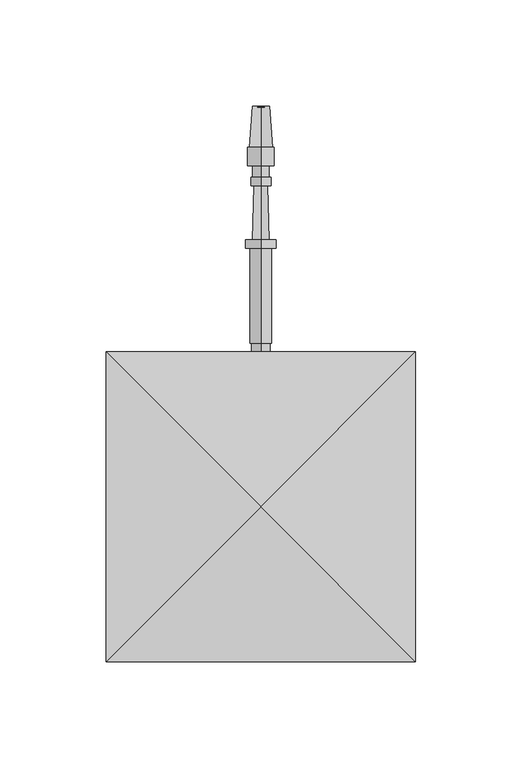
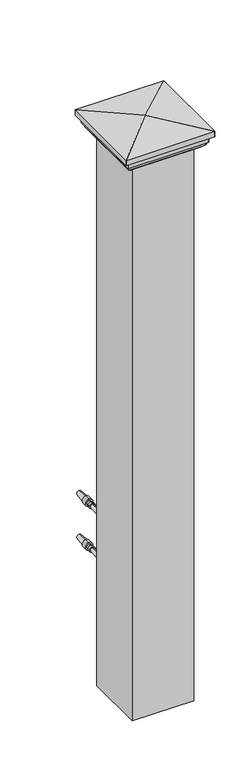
"""IFC4 building model written with IfcOpenShell, lengths in millimetres: railing geometry, RAILEASY CABLE RAILING CORNER TENSIONERS STAIR."""

from ifc_helpers import new_model, si_unit, point, frame, origin, place, context, project, spatial, polyline, circle_curve, ellipse_curve, trimmed, outline, extrude, source, transform, mapped, element, save
from ifc_brep_helpers import plane_surface, cylinder_surface, revolved_surface, advanced_brep


def railing_73b240f5(model_context):
    return source(origin(), model_context, "Body", "SolidModel", [
        advanced_brep(
        [(4097.4568095, 16768.2587003, 32759.0282881), (4097.4568095, 16768.2587003, 32762.6001631), (4097.4568095, 16768.2587003, 32766.1720381), (4097.4568095, 16893.2025896, 32762.6001631), (4097.4568095, 16893.4982539, 32758.5757028), (4097.4568095, 16893.4982539, 32766.6246235), (4097.4568095, 16874.1548899, 32757.1546072), (4097.4568095, 16874.1548899, 32768.045719), (4097.4568095, 16874.1548899, 32756.2616385), (4097.4568095, 16874.1548899, 32768.9386877), (4097.4568095, 16865.5228587, 32756.2616385), (4097.4568095, 16865.5228587, 32768.9386877), (4097.4568095, 16865.5228587, 32758.6428885), (4097.4568095, 16865.5228587, 32766.5574377), (4097.4568095, 16860.1650462, 32758.6428885), (4097.4568095, 16860.1650462, 32766.5574377), (4097.4568095, 16860.1650462, 32757.8491385), (4097.4568095, 16860.1650462, 32767.3511877), (4097.4568095, 16856.0970774, 32757.8491385), (4097.4568095, 16856.0970774, 32767.3511877), (4097.4568095, 16856.0529903, 32759.4360262), (4097.4568095, 16856.0529903, 32765.7643), (4097.4568095, 16830.6627871, 32758.7306319), (4097.4568095, 16830.6627871, 32766.4696944), (4097.4568095, 16830.6627871, 32755.4564131), (4097.4568095, 16830.6627871, 32769.7439131), (4097.4568095, 16826.6940371, 32755.4564131), (4097.4568095, 16826.6940371, 32769.7439131), (4097.4568095, 16826.6940371, 32757.4407881), (4097.4568095, 16826.6940371, 32767.7595381), (4097.4568095, 16781.9463808, 32757.4407881), (4097.4568095, 16781.9463808, 32767.7595381), (4097.4568095, 16781.9463808, 32758.2345381), (4097.4568095, 16781.9463808, 32766.9657881), (4097.4568095, 16775.5963808, 32758.2345381), (4097.4568095, 16775.5963808, 32766.9657881), (4097.4568095, 16775.5963808, 32759.0282881), (4097.4568095, 16775.5963808, 32766.1720381)],
        [
            (0, 1),
            (1, 2),
            (2, 0, circle_curve(frame((4097.4568095, 16768.2587003, 32762.6001631), z_axis=(0.0, -1.0, 0.0), x_axis=(0.0, 0.0, 1.0000000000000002)), 3.571875)),
            (0, 2, circle_curve(frame((4097.4568095, 16768.2587003, 32762.6001631), z_axis=(0.0, -1.0, 0.0), x_axis=(0.0, 0.0, 1.0000000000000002)), 3.571875)),
            (3, 4),
            (4, 5, circle_curve(frame((4097.4568095, 16893.4982539, 32762.6001631), z_axis=(0.0, 1.0, 0.0), x_axis=(0.0, 0.0, 1.0000000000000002)), 4.0244604)),
            (5, 3),
            (5, 4, circle_curve(frame((4097.4568095, 16893.4982539, 32762.6001631), z_axis=(0.0, 1.0, 0.0), x_axis=(0.0, 0.0, 1.0000000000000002)), 4.0244604)),
            (4, 6),
            (6, 7, circle_curve(frame((4097.4568095, 16874.1548899, 32762.6001631), z_axis=(0.0, 1.0, 0.0), x_axis=(0.0, 0.0, 1.0000000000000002)), 5.4455559)),
            (7, 5),
            (7, 6, circle_curve(frame((4097.4568095, 16874.1548899, 32762.6001631), z_axis=(0.0, 1.0, 0.0), x_axis=(0.0, 0.0, 1.0000000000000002)), 5.4455559)),
            (6, 8),
            (8, 9, circle_curve(frame((4097.4568095, 16874.1548899, 32762.6001631), z_axis=(0.0, 1.0, 0.0), x_axis=(0.0, 0.0, 1.0000000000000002)), 6.3385246)),
            (9, 7),
            (9, 8, circle_curve(frame((4097.4568095, 16874.1548899, 32762.6001631), z_axis=(0.0, 1.0, 0.0), x_axis=(0.0, 0.0, 1.0000000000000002)), 6.3385246)),
            (8, 10),
            (10, 11, circle_curve(frame((4097.4568095, 16865.5228587, 32762.6001631), z_axis=(0.0, 1.0, 0.0), x_axis=(0.0, 0.0, 1.0000000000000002)), 6.3385246)),
            (11, 9),
            (11, 10, circle_curve(frame((4097.4568095, 16865.5228587, 32762.6001631), z_axis=(0.0, 1.0, 0.0), x_axis=(0.0, 0.0, 1.0000000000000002)), 6.3385246)),
            (10, 12),
            (12, 13, circle_curve(frame((4097.4568095, 16865.5228587, 32762.6001631), z_axis=(0.0, 1.0, 0.0), x_axis=(0.0, 0.0, 1.0000000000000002)), 3.9572746)),
            (13, 11),
            (13, 12, circle_curve(frame((4097.4568095, 16865.5228587, 32762.6001631), z_axis=(0.0, 1.0, 0.0), x_axis=(0.0, 0.0, 1.0000000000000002)), 3.9572746)),
            (12, 14),
            (14, 15, circle_curve(frame((4097.4568095, 16860.1650462, 32762.6001631), z_axis=(0.0, 1.0, 0.0), x_axis=(0.0, 0.0, 1.0000000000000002)), 3.9572746)),
            (15, 13),
            (15, 14, circle_curve(frame((4097.4568095, 16860.1650462, 32762.6001631), z_axis=(0.0, 1.0, 0.0), x_axis=(0.0, 0.0, 1.0000000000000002)), 3.9572746)),
            (14, 16),
            (16, 17, circle_curve(frame((4097.4568095, 16860.1650462, 32762.6001631), z_axis=(0.0, 1.0, 0.0), x_axis=(0.0, 0.0, 1.0000000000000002)), 4.7510246)),
            (17, 15),
            (17, 16, circle_curve(frame((4097.4568095, 16860.1650462, 32762.6001631), z_axis=(0.0, 1.0, 0.0), x_axis=(0.0, 0.0, 1.0000000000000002)), 4.7510246)),
            (16, 18),
            (18, 19, circle_curve(frame((4097.4568095, 16856.0970774, 32762.6001631), z_axis=(0.0, 1.0, 0.0), x_axis=(0.0, 0.0, 1.0000000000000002)), 4.7510246)),
            (19, 17),
            (19, 18, circle_curve(frame((4097.4568095, 16856.0970774, 32762.6001631), z_axis=(0.0, 1.0, 0.0), x_axis=(0.0, 0.0, 1.0000000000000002)), 4.7510246)),
            (18, 20),
            (20, 21, circle_curve(frame((4097.4568095, 16856.0529903, 32762.6001631), z_axis=(0.0, 1.0, 0.0), x_axis=(0.0, 0.0, 1.0000000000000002)), 3.1641369)),
            (21, 19),
            (21, 20, circle_curve(frame((4097.4568095, 16856.0529903, 32762.6001631), z_axis=(0.0, 1.0, 0.0), x_axis=(0.0, 0.0, 1.0000000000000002)), 3.1641369)),
            (20, 22),
            (22, 23, circle_curve(frame((4097.4568095, 16830.6627871, 32762.6001631), z_axis=(0.0, 1.0, 0.0), x_axis=(0.0, 0.0, 1.0000000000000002)), 3.8695313)),
            (23, 21),
            (23, 22, circle_curve(frame((4097.4568095, 16830.6627871, 32762.6001631), z_axis=(0.0, 1.0, 0.0), x_axis=(0.0, 0.0, 1.0000000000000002)), 3.8695313)),
            (22, 24),
            (24, 25, circle_curve(frame((4097.4568095, 16830.6627871, 32762.6001631), z_axis=(0.0, 1.0, 0.0), x_axis=(0.0, 0.0, 1.0000000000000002)), 7.14375)),
            (25, 23),
            (25, 24, circle_curve(frame((4097.4568095, 16830.6627871, 32762.6001631), z_axis=(0.0, 1.0, 0.0), x_axis=(0.0, 0.0, 1.0000000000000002)), 7.14375)),
            (24, 26),
            (26, 27, circle_curve(frame((4097.4568095, 16826.6940371, 32762.6001631), z_axis=(0.0, 1.0, 0.0), x_axis=(0.0, 0.0, 1.0000000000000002)), 7.14375)),
            (27, 25),
            (27, 26, circle_curve(frame((4097.4568095, 16826.6940371, 32762.6001631), z_axis=(0.0, 1.0, 0.0), x_axis=(0.0, 0.0, 1.0000000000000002)), 7.14375)),
            (26, 28),
            (28, 29, circle_curve(frame((4097.4568095, 16826.6940371, 32762.6001631), z_axis=(0.0, 1.0, 0.0), x_axis=(0.0, 0.0, 1.0000000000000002)), 5.159375)),
            (29, 27),
            (29, 28, circle_curve(frame((4097.4568095, 16826.6940371, 32762.6001631), z_axis=(0.0, 1.0, 0.0), x_axis=(0.0, 0.0, 1.0000000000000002)), 5.159375)),
            (28, 30),
            (30, 31, circle_curve(frame((4097.4568095, 16781.9463808, 32762.6001631), z_axis=(0.0, 1.0, 0.0), x_axis=(0.0, 0.0, 1.0000000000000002)), 5.159375)),
            (31, 29),
            (31, 30, circle_curve(frame((4097.4568095, 16781.9463808, 32762.6001631), z_axis=(0.0, 1.0, 0.0), x_axis=(0.0, 0.0, 1.0000000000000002)), 5.159375)),
            (30, 32),
            (32, 33, circle_curve(frame((4097.4568095, 16781.9463808, 32762.6001631), z_axis=(0.0, 1.0, 0.0), x_axis=(0.0, 0.0, 1.0000000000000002)), 4.365625)),
            (33, 31),
            (33, 32, circle_curve(frame((4097.4568095, 16781.9463808, 32762.6001631), z_axis=(0.0, 1.0, 0.0), x_axis=(0.0, 0.0, 1.0000000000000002)), 4.365625)),
            (32, 34),
            (34, 35, circle_curve(frame((4097.4568095, 16775.5963808, 32762.6001631), z_axis=(0.0, 1.0, 0.0), x_axis=(0.0, 0.0, 1.0000000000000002)), 4.365625)),
            (35, 33),
            (35, 34, circle_curve(frame((4097.4568095, 16775.5963808, 32762.6001631), z_axis=(0.0, 1.0, 0.0), x_axis=(0.0, 0.0, 1.0000000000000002)), 4.365625)),
            (34, 36),
            (36, 37, circle_curve(frame((4097.4568095, 16775.5963808, 32762.6001631), z_axis=(0.0, 1.0, 0.0), x_axis=(0.0, 0.0, 1.0000000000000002)), 3.571875)),
            (37, 35),
            (37, 36, circle_curve(frame((4097.4568095, 16775.5963808, 32762.6001631), z_axis=(0.0, 1.0, 0.0), x_axis=(0.0, 0.0, 1.0000000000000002)), 3.571875)),
            (36, 0),
            (2, 37),
        ],
        [
            plane_surface(frame((4097.4568095, 16768.2587003, 32762.6001631), z_axis=(0.0, -1.0, 0.0), x_axis=(0.0, 0.0, 1.0))),
            revolved_surface(polyline([(4097.4568095, 16893.4982539, 32766.6246235), (4097.4568095, 16893.2025896, 32762.6001631)]), (4097.4568095, 16893.2025896, 32762.6001631), (0.0, 1.0, 0.0)),
            revolved_surface(polyline([(4097.4568095, 16874.1548899, 32768.045719), (4097.4568095, 16893.4982539, 32766.6246235)]), (4097.4568095, 16893.2025896, 32762.6001631), (0.0, 1.0, 0.0)),
            plane_surface(frame((4097.4568095, 16874.1548899, 32762.6001631), z_axis=(0.0, 1.0, 0.0), x_axis=(0.0, 0.0, 1.0))),
            cylinder_surface(frame((4097.4568095, 16893.2025896, 32762.6001631), z_axis=(0.0, 1.0, 0.0), x_axis=(0.0, 0.0, 1.0000000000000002)), 6.3385246),
            plane_surface(frame((4097.4568095, 16865.5228587, 32762.6001631), z_axis=(0.0, -1.0, 0.0), x_axis=(0.0, 0.0, 1.0))),
            cylinder_surface(frame((4097.4568095, 16893.2025896, 32762.6001631), z_axis=(0.0, 1.0, 0.0), x_axis=(0.0, 0.0, 1.0000000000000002)), 3.9572746),
            plane_surface(frame((4097.4568095, 16860.1650462, 32762.6001631), z_axis=(0.0, 1.0, 0.0), x_axis=(0.0, 0.0, 1.0))),
            cylinder_surface(frame((4097.4568095, 16893.2025896, 32762.6001631), z_axis=(0.0, 1.0, 0.0), x_axis=(0.0, 0.0, 1.0000000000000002)), 4.7510246),
            plane_surface(frame((4097.4568095, 16856.0529903, 32762.6001631), z_axis=(0.0, -1.0, 0.0), x_axis=(0.0, 0.0, 1.0))),
            revolved_surface(polyline([(4097.4568095, 16830.6627871, 32766.4696944), (4097.4568095, 16856.0529903, 32765.7643)]), (4097.4568095, 16893.2025896, 32762.6001631), (0.0, 1.0, 0.0)),
            plane_surface(frame((4097.4568095, 16830.6627871, 32762.6001631), z_axis=(0.0, 1.0, 0.0), x_axis=(0.0, 0.0, 1.0))),
            cylinder_surface(frame((4097.4568095, 16893.2025896, 32762.6001631), z_axis=(0.0, 1.0, 0.0), x_axis=(0.0, 0.0, 1.0000000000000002)), 7.14375),
            plane_surface(frame((4097.4568095, 16826.6940371, 32762.6001631), z_axis=(0.0, -1.0, 0.0), x_axis=(0.0, 0.0, 1.0))),
            cylinder_surface(frame((4097.4568095, 16893.2025896, 32762.6001631), z_axis=(0.0, 1.0, 0.0), x_axis=(0.0, 0.0, 1.0000000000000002)), 5.159375),
            plane_surface(frame((4097.4568095, 16781.9463808, 32762.6001631), z_axis=(0.0, -1.0, 0.0), x_axis=(0.0, 0.0, 1.0))),
            cylinder_surface(frame((4097.4568095, 16893.2025896, 32762.6001631), z_axis=(0.0, 1.0, 0.0), x_axis=(0.0, 0.0, 1.0000000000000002)), 4.365625),
            plane_surface(frame((4097.4568095, 16775.5963808, 32762.6001631), z_axis=(0.0, -1.0, 0.0), x_axis=(0.0, 0.0, 1.0))),
            cylinder_surface(frame((4097.4568095, 16893.2025896, 32762.6001631), z_axis=(0.0, 1.0, 0.0), x_axis=(0.0, 0.0, 1.0000000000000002)), 3.571875),
        ],
        [
            (0, [[1, 2, 3]]),
            (0, [[-2, -1, 4]]),
            (1, [[5, 6, 7]]),
            (1, [[-7, 8, -5]]),
            (2, [[9, 10, 11, -6]]),
            (2, [[-11, 12, -9, -8]]),
            (3, [[13, 14, 15, -10]]),
            (3, [[-15, 16, -13, -12]]),
            (4, [[17, 18, 19, -14]]),
            (4, [[-19, 20, -17, -16]]),
            (5, [[21, 22, 23, -18]]),
            (5, [[-23, 24, -21, -20]]),
            (6, [[25, 26, 27, -22]]),
            (6, [[-27, 28, -25, -24]]),
            (7, [[29, 30, 31, -26]]),
            (7, [[-31, 32, -29, -28]]),
            (8, [[33, 34, 35, -30]]),
            (8, [[-35, 36, -33, -32]]),
            (9, [[37, 38, 39, -34]]),
            (9, [[-39, 40, -37, -36]]),
            (10, [[41, 42, 43, -38]]),
            (10, [[-43, 44, -41, -40]]),
            (11, [[45, 46, 47, -42]]),
            (11, [[-47, 48, -45, -44]]),
            (12, [[49, 50, 51, -46]]),
            (12, [[-51, 52, -49, -48]]),
            (13, [[53, 54, 55, -50]]),
            (13, [[-55, 56, -53, -52]]),
            (14, [[57, 58, 59, -54]]),
            (14, [[-59, 60, -57, -56]]),
            (15, [[61, 62, 63, -58]]),
            (15, [[-63, 64, -61, -60]]),
            (16, [[65, 66, 67, -62]]),
            (16, [[-67, 68, -65, -64]]),
            (17, [[69, 70, 71, -66]]),
            (17, [[-71, 72, -69, -68]]),
            (18, [[73, -3, 74, -70]]),
            (18, [[-74, -4, -73, -72]]),
        ],
    ),
        advanced_brep(
        [(4097.4568095, 16755.5660637, 32686.4001631), (4097.4568095, 16755.5660637, 32705.4501631), (4097.4568095, 16755.5660637, 32667.3501631), (4097.4568095, 16768.2587003, 32680.8769785), (4097.4568095, 16768.2587003, 32691.9233478), (4097.4568095, 16768.2587003, 32686.4001631), (4097.4568095, 16762.9826039, 32677.2720381), (4097.4568095, 16762.9826039, 32695.5282881), (4097.4568095, 16758.6169789, 32671.6458254), (4097.4568095, 16758.6169789, 32701.1545009), (4097.4568095, 16758.6169789, 32667.7762941), (4097.4568095, 16758.6169789, 32705.0240321), (4097.4568095, 16757.9473137, 32667.3501631), (4097.4568095, 16757.9473137, 32705.4501631)],
        [
            (0, 1),
            (1, 2, circle_curve(frame((4097.4568095, 16755.5660637, 32686.4001631), z_axis=(0.0, -1.0, 0.0), x_axis=(0.0, 0.0, 1.0)), 19.05)),
            (2, 0),
            (2, 1, circle_curve(frame((4097.4568095, 16755.5660637, 32686.4001631), z_axis=(0.0, -1.0, 0.0), x_axis=(0.0, 0.0, 1.0)), 19.05)),
            (3, 4, circle_curve(frame((4097.4568095, 16768.2587003, 32686.4001631), z_axis=(0.0, 1.0, 0.0), x_axis=(0.0, 0.0, 1.0)), 5.5231846)),
            (4, 5),
            (5, 3),
            (4, 3, circle_curve(frame((4097.4568095, 16768.2587003, 32686.4001631), z_axis=(0.0, 1.0, 0.0), x_axis=(0.0, 0.0, 1.0)), 5.5231846)),
            (6, 7, circle_curve(frame((4097.4568095, 16762.9826039, 32686.4001631), z_axis=(0.0, 1.0, 0.0), x_axis=(0.0, 0.0, 1.0)), 9.128125)),
            (7, 4, circle_curve(frame((4097.4568095, 16760.6581952, 32686.4628958), z_axis=(-1.0, 0.0, 0.0), x_axis=(0.0, 1.0, 0.0)), 9.3586438)),
            (3, 6, circle_curve(frame((4097.4568095, 16760.6581952, 32686.3374304), z_axis=(-1.0, 0.0, 0.0), x_axis=(0.0, 1.0, 0.0)), 9.3586438)),
            (7, 6, circle_curve(frame((4097.4568095, 16762.9826039, 32686.4001631), z_axis=(0.0, 1.0, 0.0), x_axis=(0.0, 0.0, 1.0)), 9.128125)),
            (8, 9, circle_curve(frame((4097.4568095, 16758.6169789, 32686.4001631), z_axis=(0.0, 1.0, 0.0), x_axis=(0.0, 0.0, 1.0)), 14.7543378)),
            (9, 7, circle_curve(frame((4097.4568095, 16764.4251909, 32701.1545009), z_axis=(1.0, 0.0, 0.0), x_axis=(0.0, 1.0, 0.0)), 5.8082121)),
            (6, 8, circle_curve(frame((4097.4568095, 16764.4251909, 32671.6458254), z_axis=(1.0, 0.0, 0.0), x_axis=(0.0, 1.0, 0.0)), 5.8082121)),
            (9, 8, circle_curve(frame((4097.4568095, 16758.6169789, 32686.4001631), z_axis=(0.0, 1.0, 0.0), x_axis=(0.0, 0.0, 1.0)), 14.7543378)),
            (10, 11, circle_curve(frame((4097.4568095, 16758.6169789, 32686.4001631), z_axis=(0.0, 1.0, 0.0), x_axis=(0.0, 0.0, 1.0)), 18.623869)),
            (11, 9),
            (8, 10),
            (11, 10, circle_curve(frame((4097.4568095, 16758.6169789, 32686.4001631), z_axis=(0.0, 1.0, 0.0), x_axis=(0.0, 0.0, 1.0)), 18.623869)),
            (12, 13, circle_curve(frame((4097.4568095, 16757.9473137, 32686.4001631), z_axis=(0.0, 1.0, 0.0), x_axis=(0.0, 0.0, 1.0)), 19.05)),
            (13, 11),
            (10, 12),
            (13, 12, circle_curve(frame((4097.4568095, 16757.9473137, 32686.4001631), z_axis=(0.0, 1.0, 0.0), x_axis=(0.0, 0.0, 1.0)), 19.05)),
            (1, 13),
            (12, 2),
        ],
        [
            plane_surface(frame((4097.4568095, 16755.5660637, 32686.4001631), z_axis=(0.0, -1.0, 0.0), x_axis=(0.0, 0.0, 1.0))),
            plane_surface(frame((4097.4568095, 16768.2587003, 32686.4001631), z_axis=(0.0, 1.0, 0.0), x_axis=(0.0, 0.0, 1.0))),
            revolved_surface(trimmed(ellipse_curve(frame((4097.4568095, 16760.6581952, 32686.4628958), z_axis=(1.0, 0.0, 0.0), x_axis=(0.0, 1.0, 0.0)), 9.3586438, 9.3586438), [point((4097.4568095, 16768.2587003, 32691.9233478))], [point((4097.4568095, 16762.9826039, 32695.5282881))], True, "CARTESIAN"), (4097.4568095, 16755.5660637, 32686.4001631), (0.0, -1.0, 0.0)),
            revolved_surface(trimmed(ellipse_curve(frame((4097.4568095, 16764.4251909, 32701.1545009), z_axis=(-1.0, 0.0, 0.0), x_axis=(0.0, 1.0, 0.0)), 5.8082121, 5.8082121), [point((4097.4568095, 16762.9826039, 32695.5282881))], [point((4097.4568095, 16758.6169789, 32701.1545009))], True, "CARTESIAN"), (4097.4568095, 16755.5660637, 32686.4001631), (0.0, -1.0, 0.0)),
            plane_surface(frame((4097.4568095, 16758.6169789, 32686.4001631), z_axis=(0.0, 1.0, 0.0), x_axis=(0.0, 0.0, 1.0))),
            revolved_surface(polyline([(4097.4568095, 16758.6169789, 32705.0240321), (4097.4568095, 16757.9473137, 32705.4501631)]), (4097.4568095, 16755.5660637, 32686.4001631), (0.0, -1.0, 0.0)),
            cylinder_surface(frame((4097.4568095, 16755.5660637, 32686.4001631), z_axis=(0.0, -1.0, 0.0), x_axis=(0.0, 0.0, 1.0)), 19.05),
        ],
        [
            (0, [[1, 2, 3]]),
            (0, [[-3, 4, -1]]),
            (1, [[5, 6, 7]]),
            (1, [[8, -7, -6]]),
            (2, [[9, 10, -5, 11]]),
            (2, [[12, -11, -8, -10]]),
            (3, [[13, 14, -9, 15]]),
            (3, [[16, -15, -12, -14]]),
            (4, [[17, 18, -13, 19]]),
            (4, [[20, -19, -16, -18]]),
            (5, [[21, 22, -17, 23]]),
            (5, [[24, -23, -20, -22]]),
            (6, [[-2, 25, -21, 26]]),
            (6, [[-4, -26, -24, -25]]),
        ],
    ),
        advanced_brep(
        [(4097.4568095, 16768.2587003, 32682.8282881), (4097.4568095, 16768.2587003, 32686.4001631), (4097.4568095, 16768.2587003, 32689.9720381), (4097.4568095, 16893.2025896, 32686.4001631), (4097.4568095, 16893.4982539, 32682.3757028), (4097.4568095, 16893.4982539, 32690.4246235), (4097.4568095, 16874.1548899, 32680.9546072), (4097.4568095, 16874.1548899, 32691.845719), (4097.4568095, 16874.1548899, 32680.0616385), (4097.4568095, 16874.1548899, 32692.7386877), (4097.4568095, 16865.5228587, 32680.0616385), (4097.4568095, 16865.5228587, 32692.7386877), (4097.4568095, 16865.5228587, 32682.4428885), (4097.4568095, 16865.5228587, 32690.3574377), (4097.4568095, 16860.1650462, 32682.4428885), (4097.4568095, 16860.1650462, 32690.3574377), (4097.4568095, 16860.1650462, 32681.6491385), (4097.4568095, 16860.1650462, 32691.1511877), (4097.4568095, 16856.0970774, 32681.6491385), (4097.4568095, 16856.0970774, 32691.1511877), (4097.4568095, 16856.0529903, 32683.2360262), (4097.4568095, 16856.0529903, 32689.5643), (4097.4568095, 16830.6627871, 32682.5306319), (4097.4568095, 16830.6627871, 32690.2696944), (4097.4568095, 16830.6627871, 32679.2564131), (4097.4568095, 16830.6627871, 32693.5439131), (4097.4568095, 16826.6940371, 32679.2564131), (4097.4568095, 16826.6940371, 32693.5439131), (4097.4568095, 16826.6940371, 32681.2407881), (4097.4568095, 16826.6940371, 32691.5595381), (4097.4568095, 16781.9463808, 32681.2407881), (4097.4568095, 16781.9463808, 32691.5595381), (4097.4568095, 16781.9463808, 32682.0345381), (4097.4568095, 16781.9463808, 32690.7657881), (4097.4568095, 16775.5963808, 32682.0345381), (4097.4568095, 16775.5963808, 32690.7657881), (4097.4568095, 16775.5963808, 32682.8282881), (4097.4568095, 16775.5963808, 32689.9720381)],
        [
            (0, 1),
            (1, 2),
            (2, 0, circle_curve(frame((4097.4568095, 16768.2587003, 32686.4001631), z_axis=(0.0, -1.0, 0.0), x_axis=(0.0, 0.0, 1.0000000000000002)), 3.571875)),
            (0, 2, circle_curve(frame((4097.4568095, 16768.2587003, 32686.4001631), z_axis=(0.0, -1.0, 0.0), x_axis=(0.0, 0.0, 1.0000000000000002)), 3.571875)),
            (3, 4),
            (4, 5, circle_curve(frame((4097.4568095, 16893.4982539, 32686.4001631), z_axis=(0.0, 1.0, 0.0), x_axis=(0.0, 0.0, 1.0000000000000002)), 4.0244604)),
            (5, 3),
            (5, 4, circle_curve(frame((4097.4568095, 16893.4982539, 32686.4001631), z_axis=(0.0, 1.0, 0.0), x_axis=(0.0, 0.0, 1.0000000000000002)), 4.0244604)),
            (4, 6),
            (6, 7, circle_curve(frame((4097.4568095, 16874.1548899, 32686.4001631), z_axis=(0.0, 1.0, 0.0), x_axis=(0.0, 0.0, 1.0000000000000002)), 5.4455559)),
            (7, 5),
            (7, 6, circle_curve(frame((4097.4568095, 16874.1548899, 32686.4001631), z_axis=(0.0, 1.0, 0.0), x_axis=(0.0, 0.0, 1.0000000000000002)), 5.4455559)),
            (6, 8),
            (8, 9, circle_curve(frame((4097.4568095, 16874.1548899, 32686.4001631), z_axis=(0.0, 1.0, 0.0), x_axis=(0.0, 0.0, 1.0000000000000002)), 6.3385246)),
            (9, 7),
            (9, 8, circle_curve(frame((4097.4568095, 16874.1548899, 32686.4001631), z_axis=(0.0, 1.0, 0.0), x_axis=(0.0, 0.0, 1.0000000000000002)), 6.3385246)),
            (8, 10),
            (10, 11, circle_curve(frame((4097.4568095, 16865.5228587, 32686.4001631), z_axis=(0.0, 1.0, 0.0), x_axis=(0.0, 0.0, 1.0000000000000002)), 6.3385246)),
            (11, 9),
            (11, 10, circle_curve(frame((4097.4568095, 16865.5228587, 32686.4001631), z_axis=(0.0, 1.0, 0.0), x_axis=(0.0, 0.0, 1.0000000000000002)), 6.3385246)),
            (10, 12),
            (12, 13, circle_curve(frame((4097.4568095, 16865.5228587, 32686.4001631), z_axis=(0.0, 1.0, 0.0), x_axis=(0.0, 0.0, 1.0000000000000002)), 3.9572746)),
            (13, 11),
            (13, 12, circle_curve(frame((4097.4568095, 16865.5228587, 32686.4001631), z_axis=(0.0, 1.0, 0.0), x_axis=(0.0, 0.0, 1.0000000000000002)), 3.9572746)),
            (12, 14),
            (14, 15, circle_curve(frame((4097.4568095, 16860.1650462, 32686.4001631), z_axis=(0.0, 1.0, 0.0), x_axis=(0.0, 0.0, 1.0000000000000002)), 3.9572746)),
            (15, 13),
            (15, 14, circle_curve(frame((4097.4568095, 16860.1650462, 32686.4001631), z_axis=(0.0, 1.0, 0.0), x_axis=(0.0, 0.0, 1.0000000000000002)), 3.9572746)),
            (14, 16),
            (16, 17, circle_curve(frame((4097.4568095, 16860.1650462, 32686.4001631), z_axis=(0.0, 1.0, 0.0), x_axis=(0.0, 0.0, 1.0000000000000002)), 4.7510246)),
            (17, 15),
            (17, 16, circle_curve(frame((4097.4568095, 16860.1650462, 32686.4001631), z_axis=(0.0, 1.0, 0.0), x_axis=(0.0, 0.0, 1.0000000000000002)), 4.7510246)),
            (16, 18),
            (18, 19, circle_curve(frame((4097.4568095, 16856.0970774, 32686.4001631), z_axis=(0.0, 1.0, 0.0), x_axis=(0.0, 0.0, 1.0000000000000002)), 4.7510246)),
            (19, 17),
            (19, 18, circle_curve(frame((4097.4568095, 16856.0970774, 32686.4001631), z_axis=(0.0, 1.0, 0.0), x_axis=(0.0, 0.0, 1.0000000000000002)), 4.7510246)),
            (18, 20),
            (20, 21, circle_curve(frame((4097.4568095, 16856.0529903, 32686.4001631), z_axis=(0.0, 1.0, 0.0), x_axis=(0.0, 0.0, 1.0000000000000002)), 3.1641369)),
            (21, 19),
            (21, 20, circle_curve(frame((4097.4568095, 16856.0529903, 32686.4001631), z_axis=(0.0, 1.0, 0.0), x_axis=(0.0, 0.0, 1.0000000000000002)), 3.1641369)),
            (20, 22),
            (22, 23, circle_curve(frame((4097.4568095, 16830.6627871, 32686.4001631), z_axis=(0.0, 1.0, 0.0), x_axis=(0.0, 0.0, 1.0000000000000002)), 3.8695313)),
            (23, 21),
            (23, 22, circle_curve(frame((4097.4568095, 16830.6627871, 32686.4001631), z_axis=(0.0, 1.0, 0.0), x_axis=(0.0, 0.0, 1.0000000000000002)), 3.8695313)),
            (22, 24),
            (24, 25, circle_curve(frame((4097.4568095, 16830.6627871, 32686.4001631), z_axis=(0.0, 1.0, 0.0), x_axis=(0.0, 0.0, 1.0000000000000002)), 7.14375)),
            (25, 23),
            (25, 24, circle_curve(frame((4097.4568095, 16830.6627871, 32686.4001631), z_axis=(0.0, 1.0, 0.0), x_axis=(0.0, 0.0, 1.0000000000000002)), 7.14375)),
            (24, 26),
            (26, 27, circle_curve(frame((4097.4568095, 16826.6940371, 32686.4001631), z_axis=(0.0, 1.0, 0.0), x_axis=(0.0, 0.0, 1.0000000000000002)), 7.14375)),
            (27, 25),
            (27, 26, circle_curve(frame((4097.4568095, 16826.6940371, 32686.4001631), z_axis=(0.0, 1.0, 0.0), x_axis=(0.0, 0.0, 1.0000000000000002)), 7.14375)),
            (26, 28),
            (28, 29, circle_curve(frame((4097.4568095, 16826.6940371, 32686.4001631), z_axis=(0.0, 1.0, 0.0), x_axis=(0.0, 0.0, 1.0000000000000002)), 5.159375)),
            (29, 27),
            (29, 28, circle_curve(frame((4097.4568095, 16826.6940371, 32686.4001631), z_axis=(0.0, 1.0, 0.0), x_axis=(0.0, 0.0, 1.0000000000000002)), 5.159375)),
            (28, 30),
            (30, 31, circle_curve(frame((4097.4568095, 16781.9463808, 32686.4001631), z_axis=(0.0, 1.0, 0.0), x_axis=(0.0, 0.0, 1.0000000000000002)), 5.159375)),
            (31, 29),
            (31, 30, circle_curve(frame((4097.4568095, 16781.9463808, 32686.4001631), z_axis=(0.0, 1.0, 0.0), x_axis=(0.0, 0.0, 1.0000000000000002)), 5.159375)),
            (30, 32),
            (32, 33, circle_curve(frame((4097.4568095, 16781.9463808, 32686.4001631), z_axis=(0.0, 1.0, 0.0), x_axis=(0.0, 0.0, 1.0000000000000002)), 4.365625)),
            (33, 31),
            (33, 32, circle_curve(frame((4097.4568095, 16781.9463808, 32686.4001631), z_axis=(0.0, 1.0, 0.0), x_axis=(0.0, 0.0, 1.0000000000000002)), 4.365625)),
            (32, 34),
            (34, 35, circle_curve(frame((4097.4568095, 16775.5963808, 32686.4001631), z_axis=(0.0, 1.0, 0.0), x_axis=(0.0, 0.0, 1.0000000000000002)), 4.365625)),
            (35, 33),
            (35, 34, circle_curve(frame((4097.4568095, 16775.5963808, 32686.4001631), z_axis=(0.0, 1.0, 0.0), x_axis=(0.0, 0.0, 1.0000000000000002)), 4.365625)),
            (34, 36),
            (36, 37, circle_curve(frame((4097.4568095, 16775.5963808, 32686.4001631), z_axis=(0.0, 1.0, 0.0), x_axis=(0.0, 0.0, 1.0000000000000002)), 3.571875)),
            (37, 35),
            (37, 36, circle_curve(frame((4097.4568095, 16775.5963808, 32686.4001631), z_axis=(0.0, 1.0, 0.0), x_axis=(0.0, 0.0, 1.0000000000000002)), 3.571875)),
            (36, 0),
            (2, 37),
        ],
        [
            plane_surface(frame((4097.4568095, 16768.2587003, 32686.4001631), z_axis=(0.0, -1.0, 0.0), x_axis=(0.0, 0.0, 1.0))),
            revolved_surface(polyline([(4097.4568095, 16893.4982539, 32690.4246235), (4097.4568095, 16893.2025896, 32686.4001631)]), (4097.4568095, 16893.2025896, 32686.4001631), (0.0, 1.0, 0.0)),
            revolved_surface(polyline([(4097.4568095, 16874.1548899, 32691.845719), (4097.4568095, 16893.4982539, 32690.4246235)]), (4097.4568095, 16893.2025896, 32686.4001631), (0.0, 1.0, 0.0)),
            plane_surface(frame((4097.4568095, 16874.1548899, 32686.4001631), z_axis=(0.0, 1.0, 0.0), x_axis=(0.0, 0.0, 1.0))),
            cylinder_surface(frame((4097.4568095, 16893.2025896, 32686.4001631), z_axis=(0.0, 1.0, 0.0), x_axis=(0.0, 0.0, 1.0000000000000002)), 6.3385246),
            plane_surface(frame((4097.4568095, 16865.5228587, 32686.4001631), z_axis=(0.0, -1.0, 0.0), x_axis=(0.0, 0.0, 1.0))),
            cylinder_surface(frame((4097.4568095, 16893.2025896, 32686.4001631), z_axis=(0.0, 1.0, 0.0), x_axis=(0.0, 0.0, 1.0000000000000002)), 3.9572746),
            plane_surface(frame((4097.4568095, 16860.1650462, 32686.4001631), z_axis=(0.0, 1.0, 0.0), x_axis=(0.0, 0.0, 1.0))),
            cylinder_surface(frame((4097.4568095, 16893.2025896, 32686.4001631), z_axis=(0.0, 1.0, 0.0), x_axis=(0.0, 0.0, 1.0000000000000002)), 4.7510246),
            plane_surface(frame((4097.4568095, 16856.0529903, 32686.4001631), z_axis=(0.0, -1.0, 0.0), x_axis=(0.0, 0.0, 1.0))),
            revolved_surface(polyline([(4097.4568095, 16830.6627871, 32690.2696944), (4097.4568095, 16856.0529903, 32689.5643)]), (4097.4568095, 16893.2025896, 32686.4001631), (0.0, 1.0, 0.0)),
            plane_surface(frame((4097.4568095, 16830.6627871, 32686.4001631), z_axis=(0.0, 1.0, 0.0), x_axis=(0.0, 0.0, 1.0))),
            cylinder_surface(frame((4097.4568095, 16893.2025896, 32686.4001631), z_axis=(0.0, 1.0, 0.0), x_axis=(0.0, 0.0, 1.0000000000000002)), 7.14375),
            plane_surface(frame((4097.4568095, 16826.6940371, 32686.4001631), z_axis=(0.0, -1.0, 0.0), x_axis=(0.0, 0.0, 1.0))),
            cylinder_surface(frame((4097.4568095, 16893.2025896, 32686.4001631), z_axis=(0.0, 1.0, 0.0), x_axis=(0.0, 0.0, 1.0000000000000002)), 5.159375),
            plane_surface(frame((4097.4568095, 16781.9463808, 32686.4001631), z_axis=(0.0, -1.0, 0.0), x_axis=(0.0, 0.0, 1.0))),
            cylinder_surface(frame((4097.4568095, 16893.2025896, 32686.4001631), z_axis=(0.0, 1.0, 0.0), x_axis=(0.0, 0.0, 1.0000000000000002)), 4.365625),
            plane_surface(frame((4097.4568095, 16775.5963808, 32686.4001631), z_axis=(0.0, -1.0, 0.0), x_axis=(0.0, 0.0, 1.0))),
            cylinder_surface(frame((4097.4568095, 16893.2025896, 32686.4001631), z_axis=(0.0, 1.0, 0.0), x_axis=(0.0, 0.0, 1.0000000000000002)), 3.571875),
        ],
        [
            (0, [[1, 2, 3]]),
            (0, [[-2, -1, 4]]),
            (1, [[5, 6, 7]]),
            (1, [[-7, 8, -5]]),
            (2, [[9, 10, 11, -6]]),
            (2, [[-11, 12, -9, -8]]),
            (3, [[13, 14, 15, -10]]),
            (3, [[-15, 16, -13, -12]]),
            (4, [[17, 18, 19, -14]]),
            (4, [[-19, 20, -17, -16]]),
            (5, [[21, 22, 23, -18]]),
            (5, [[-23, 24, -21, -20]]),
            (6, [[25, 26, 27, -22]]),
            (6, [[-27, 28, -25, -24]]),
            (7, [[29, 30, 31, -26]]),
            (7, [[-31, 32, -29, -28]]),
            (8, [[33, 34, 35, -30]]),
            (8, [[-35, 36, -33, -32]]),
            (9, [[37, 38, 39, -34]]),
            (9, [[-39, 40, -37, -36]]),
            (10, [[41, 42, 43, -38]]),
            (10, [[-43, 44, -41, -40]]),
            (11, [[45, 46, 47, -42]]),
            (11, [[-47, 48, -45, -44]]),
            (12, [[49, 50, 51, -46]]),
            (12, [[-51, 52, -49, -48]]),
            (13, [[53, 54, 55, -50]]),
            (13, [[-55, 56, -53, -52]]),
            (14, [[57, 58, 59, -54]]),
            (14, [[-59, 60, -57, -56]]),
            (15, [[61, 62, 63, -58]]),
            (15, [[-63, 64, -61, -60]]),
            (16, [[65, 66, 67, -62]]),
            (16, [[-67, 68, -65, -64]]),
            (17, [[69, 70, 71, -66]]),
            (17, [[-71, 72, -69, -68]]),
            (18, [[73, -3, 74, -70]]),
            (18, [[-74, -4, -73, -72]]),
        ],
    ),
        extrude(outline(polyline([(4046.6568095, 16653.9487645), (4046.6568095, 16755.5487645), (4148.2568095, 16755.5487645), (4148.2568095, 16653.9487645), (4046.6568095, 16653.9487645)])), frame((0.0, 0.0, 32527.3789062), z_axis=(0.0, 0.0, 1.0), x_axis=(1.0, 0.0, 0.0)), (0.0, 0.0, 1.0), 965.2),
        advanced_brep(
        [(4170.4818095, 16631.7237645, 33527.5039062), (4170.4818095, 16777.7737645, 33527.5039062), (4097.4568095, 16704.7487645, 33537.0289063), (4170.4818095, 16631.7237645, 33517.9789062), (4170.4818095, 16777.7737645, 33517.9789062), (4164.1318095, 16638.0737645, 33517.9789062), (4164.1318095, 16771.4237645, 33517.9789062), (4164.1318095, 16638.0737645, 33506.8203026), (4164.1318095, 16771.4237645, 33506.8203026), (4160.4607158, 16641.7448583, 33500.5164062), (4160.4607158, 16767.7526708, 33500.5164062), (4157.2857158, 16644.9198583, 33500.5164062), (4157.2857158, 16764.5776708, 33500.5164062), (4150.9357158, 16651.2698583, 33494.1664062), (4150.9357158, 16758.2276708, 33494.1664062), (4150.9357158, 16651.2698583, 33492.5789063), (4150.9357158, 16758.2276708, 33492.5789063), (4097.4568095, 16704.7487645, 33492.5789063)],
        [
            (0, 1),
            (1, 2),
            (2, 0),
            (3, 4),
            (4, 1),
            (0, 3),
            (5, 6),
            (6, 4),
            (3, 5),
            (7, 8),
            (8, 6),
            (5, 7),
            (9, 10),
            (10, 8, ellipse_curve(frame((4173.1607158, 16780.4526708, 33497.3414063), z_axis=(-0.7071067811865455, 0.7071067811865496, 0.0), x_axis=(-0.7071067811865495, -0.7071067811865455, 0.0)), 18.5132723, 13.0908604)),
            (7, 9, ellipse_curve(frame((4173.1607158, 16629.0448583, 33497.3414063), z_axis=(-0.7071067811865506, -0.7071067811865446, 0.0), x_axis=(0.7071067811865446, -0.7071067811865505, 0.0)), 18.5132723, 13.0908604)),
            (11, 12),
            (12, 10),
            (9, 11),
            (13, 14),
            (14, 12, ellipse_curve(frame((4150.9357158, 16758.2276708, 33500.5164062), z_axis=(0.7071067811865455, -0.7071067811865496, 0.0), x_axis=(0.7071067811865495, 0.7071067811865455, 0.0)), 8.9802561, 6.35)),
            (11, 13, ellipse_curve(frame((4150.9357158, 16651.2698583, 33500.5164062), z_axis=(0.7071067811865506, 0.7071067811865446, 0.0), x_axis=(-0.7071067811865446, 0.7071067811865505, 0.0)), 8.9802561, 6.35)),
            (15, 16),
            (16, 14),
            (13, 15),
            (17, 16),
            (15, 17),
            (2, 17),
        ],
        [
            plane_surface(frame((4170.4818095, 16821.9504732, 33527.5039062), z_axis=(0.12933918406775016, 0.0, 0.9916004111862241), x_axis=(0.0, -1.0, 0.0))),
            plane_surface(frame((4170.4818095, 16821.9504732, 33517.9789062), z_axis=(1.0, 0.0, 0.0), x_axis=(0.0, -1.0, 0.0))),
            plane_surface(frame((4164.1318095, 16821.9504732, 33517.9789062), z_axis=(0.0, 0.0, -1.0), x_axis=(0.0, -1.0, 0.0))),
            plane_surface(frame((4164.1318095, 16821.9504732, 33506.8203026), z_axis=(1.0, 0.0, 0.0), x_axis=(0.0, -1.0, 0.0))),
            revolved_surface(polyline([(4160.0698554, 16615.953997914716, 33497.3414063), (4160.0698554, 16793.543531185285, 33497.3414063)]), (4173.1607158, 16595.4551851, 33497.3414063), (0.0, -1.0, 0.0)),
            plane_surface(frame((4157.2857158, 16821.9504732, 33500.5164062), z_axis=(0.0, 0.0, -1.0), x_axis=(0.0, -1.0, 0.0))),
            cylinder_surface(frame((4150.9357158, 16595.4551851, 33500.5164062), z_axis=(0.0, 1.0, 0.0), x_axis=(-1.0, 0.0, 0.0)), 6.35),
            plane_surface(frame((4150.9357158, 16821.9504732, 33492.5789063), z_axis=(1.0, 0.0, 0.0), x_axis=(0.0, -1.0, 0.0))),
            plane_surface(frame((4097.4568095, 16821.9504732, 33492.5789063), z_axis=(0.0, 0.0, -1.0), x_axis=(0.0, -1.0, 0.0))),
            plane_surface(frame((4097.4568095, 16704.7487645, 33721.1789063), z_axis=(-0.7071067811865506, -0.7071067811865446, 0.0), x_axis=(0.0, 0.0, -1.0))),
            plane_surface(frame((4230.8068095, 16838.0987645, 33721.1789063), z_axis=(-0.7071067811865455, 0.7071067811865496, 0.0), x_axis=(0.0, 0.0, -1.0))),
        ],
        [
            (0, [[1, 2, 3]]),
            (1, [[4, 5, -1, 6]]),
            (2, [[7, 8, -4, 9]]),
            (3, [[10, 11, -7, 12]]),
            (4, [[13, 14, -10, 15]]),
            (5, [[16, 17, -13, 18]]),
            (6, [[19, 20, -16, 21]]),
            (7, [[22, 23, -19, 24]]),
            (8, [[25, -22, 26]]),
            (9, [[27, -26, -24, -21, -18, -15, -12, -9, -6, -3]]),
            (10, [[-5, -8, -11, -14, -17, -20, -23, -25, -27, -2]]),
        ],
    ),
        advanced_brep(
        [(4097.4568095, 16704.7487645, 33537.0289063), (4024.4318095, 16777.7737645, 33527.5039062), (4024.4318095, 16631.7237645, 33527.5039062), (4024.4318095, 16777.7737645, 33517.9789062), (4024.4318095, 16631.7237645, 33517.9789062), (4030.7818095, 16771.4237645, 33517.9789062), (4030.7818095, 16638.0737645, 33517.9789062), (4030.7818095, 16771.4237645, 33506.8203026), (4030.7818095, 16638.0737645, 33506.8203026), (4034.4529033, 16767.7526708, 33500.5164062), (4034.4529033, 16641.7448583, 33500.5164062), (4037.6279033, 16764.5776708, 33500.5164062), (4037.6279033, 16644.9198583, 33500.5164062), (4043.9779033, 16758.2276708, 33494.1664062), (4043.9779033, 16651.2698583, 33494.1664062), (4043.9779033, 16758.2276708, 33492.5789063), (4043.9779033, 16651.2698583, 33492.5789063), (4097.4568095, 16704.7487645, 33492.5789063)],
        [
            (0, 1),
            (1, 2),
            (2, 0),
            (1, 3),
            (3, 4),
            (4, 2),
            (3, 5),
            (5, 6),
            (6, 4),
            (5, 7),
            (7, 8),
            (8, 6),
            (7, 9, ellipse_curve(frame((4021.7529033, 16780.4526708, 33497.3414063), z_axis=(0.7071067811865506, 0.7071067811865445, 0.0), x_axis=(0.7071067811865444, -0.7071067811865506, 0.0)), 18.5132723, 13.0908604)),
            (9, 10),
            (10, 8, ellipse_curve(frame((4021.7529033, 16629.0448583, 33497.3414063), z_axis=(0.7071067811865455, -0.7071067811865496, 0.0), x_axis=(-0.7071067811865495, -0.7071067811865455, 0.0)), 18.5132723, 13.0908604)),
            (9, 11),
            (11, 12),
            (12, 10),
            (11, 13, ellipse_curve(frame((4043.9779033, 16758.2276708, 33500.5164062), z_axis=(-0.7071067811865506, -0.7071067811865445, 0.0), x_axis=(-0.7071067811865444, 0.7071067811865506, 0.0)), 8.9802561, 6.35)),
            (13, 14),
            (14, 12, ellipse_curve(frame((4043.9779033, 16651.2698583, 33500.5164062), z_axis=(-0.7071067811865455, 0.7071067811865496, 0.0), x_axis=(0.7071067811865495, 0.7071067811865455, 0.0)), 8.9802561, 6.35)),
            (13, 15),
            (15, 16),
            (16, 14),
            (15, 17),
            (17, 16),
            (17, 0),
        ],
        [
            plane_surface(frame((4097.4568095, 16821.9504732, 33537.0289063), z_axis=(-0.12933918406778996, 0.0, 0.9916004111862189), x_axis=(0.0, -1.0, 0.0))),
            plane_surface(frame((4024.4318095, 16821.9504732, 33527.5039062), z_axis=(-1.0, 0.0, 0.0), x_axis=(0.0, -1.0, 0.0))),
            plane_surface(frame((4024.4318095, 16821.9504732, 33517.9789062), z_axis=(0.0, 0.0, -1.0), x_axis=(0.0, -1.0, 0.0))),
            plane_surface(frame((4030.7818095, 16821.9504732, 33517.9789062), z_axis=(-1.0, 0.0, 0.0), x_axis=(0.0, -1.0, 0.0))),
            revolved_surface(polyline([(4034.8437637, 16615.953997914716, 33497.3414063), (4034.8437637, 16793.543531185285, 33497.3414063)]), (4021.7529033, 16595.4551851, 33497.3414063), (0.0, -1.0, 0.0)),
            plane_surface(frame((4034.4529033, 16821.9504732, 33500.5164062), z_axis=(0.0, 0.0, -1.0), x_axis=(0.0, -1.0, 0.0))),
            cylinder_surface(frame((4043.9779033, 16595.4551851, 33500.5164062), z_axis=(0.0, 1.0, 0.0), x_axis=(1.0, 0.0, 0.0)), 6.35),
            plane_surface(frame((4043.9779033, 16821.9504732, 33494.1664062), z_axis=(-1.0, 0.0, 0.0), x_axis=(0.0, -1.0, 0.0))),
            plane_surface(frame((4043.9779033, 16821.9504732, 33492.5789063), z_axis=(0.0, 0.0, -1.0), x_axis=(0.0, -1.0, 0.0))),
            plane_surface(frame((3988.1632302, 16595.4551851, 33721.1789063), z_axis=(0.7071067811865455, -0.7071067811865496, 0.0), x_axis=(0.0, 0.0, -1.0))),
            plane_surface(frame((4097.4568095, 16704.7487645, 33721.1789063), z_axis=(0.7071067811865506, 0.7071067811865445, 0.0), x_axis=(0.0, 0.0, -1.0))),
        ],
        [
            (0, [[1, 2, 3]]),
            (1, [[-2, 4, 5, 6]]),
            (2, [[-5, 7, 8, 9]]),
            (3, [[-8, 10, 11, 12]]),
            (4, [[-11, 13, 14, 15]]),
            (5, [[-14, 16, 17, 18]]),
            (6, [[-17, 19, 20, 21]]),
            (7, [[-20, 22, 23, 24]]),
            (8, [[-23, 25, 26]]),
            (9, [[-6, -9, -12, -15, -18, -21, -24, -26, 27, -3]]),
            (10, [[-27, -25, -22, -19, -16, -13, -10, -7, -4, -1]]),
        ],
    ),
        advanced_brep(
        [(4097.4568095, 16704.7487645, 33537.0289063), (4024.4318095, 16631.7237645, 33527.5039062), (4170.4818095, 16631.7237645, 33527.5039062), (4024.4318095, 16631.7237645, 33517.9789062), (4170.4818095, 16631.7237645, 33517.9789062), (4030.7818095, 16638.0737645, 33517.9789062), (4164.1318095, 16638.0737645, 33517.9789062), (4030.7818095, 16638.0737645, 33506.8203026), (4164.1318095, 16638.0737645, 33506.8203026), (4034.4529033, 16641.7448583, 33500.5164062), (4160.4607158, 16641.7448583, 33500.5164062), (4037.6279033, 16644.9198583, 33500.5164062), (4157.2857158, 16644.9198583, 33500.5164062), (4043.9779033, 16651.2698583, 33494.1664062), (4150.9357158, 16651.2698583, 33494.1664062), (4043.9779033, 16651.2698583, 33492.5789063), (4150.9357158, 16651.2698583, 33492.5789063), (4097.4568095, 16704.7487645, 33492.5789063)],
        [
            (0, 1),
            (1, 2),
            (2, 0),
            (1, 3),
            (3, 4),
            (4, 2),
            (3, 5),
            (5, 6),
            (6, 4),
            (5, 7),
            (7, 8),
            (8, 6),
            (7, 9, ellipse_curve(frame((4021.7529033, 16629.0448583, 33497.3414063), z_axis=(-0.7071067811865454, 0.7071067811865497, 0.0), x_axis=(-0.7071067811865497, -0.7071067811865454, 0.0)), 18.5132723, 13.0908604)),
            (9, 10),
            (10, 8, ellipse_curve(frame((4173.1607158, 16629.0448583, 33497.3414063), z_axis=(0.7071067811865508, 0.7071067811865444, 0.0), x_axis=(-0.7071067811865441, 0.7071067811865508, 0.0)), 18.5132723, 13.0908604)),
            (9, 11),
            (11, 12),
            (12, 10),
            (11, 13, ellipse_curve(frame((4043.9779033, 16651.2698583, 33500.5164062), z_axis=(0.7071067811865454, -0.7071067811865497, 0.0), x_axis=(0.7071067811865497, 0.7071067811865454, 0.0)), 8.9802561, 6.35)),
            (13, 14),
            (14, 12, ellipse_curve(frame((4150.9357158, 16651.2698583, 33500.5164062), z_axis=(-0.7071067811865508, -0.7071067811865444, 0.0), x_axis=(0.7071067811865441, -0.7071067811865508, 0.0)), 8.9802561, 6.35)),
            (13, 15),
            (15, 16),
            (16, 14),
            (15, 17),
            (17, 16),
            (17, 0),
        ],
        [
            plane_surface(frame((4214.6585182, 16631.7237645, 33527.5039062), z_axis=(0.0, -0.1293391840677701, 0.9916004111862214), x_axis=(-1.0, 0.0, 0.0))),
            plane_surface(frame((4214.6585182, 16631.7237645, 33517.9789062), z_axis=(0.0, -1.0, 0.0), x_axis=(-1.0, 0.0, 0.0))),
            plane_surface(frame((4214.6585182, 16638.0737645, 33517.9789062), z_axis=(0.0, 0.0, -1.0), x_axis=(-1.0, 0.0, 0.0))),
            plane_surface(frame((4214.6585182, 16638.0737645, 33506.8203026), z_axis=(0.0, -1.0, 0.0), x_axis=(-1.0, 0.0, 0.0))),
            revolved_surface(polyline([(4008.662042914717, 16642.1357187, 33497.3414063), (4186.251576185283, 16642.1357187, 33497.3414063)]), (3988.1632302, 16629.0448583, 33497.3414063), (-1.0, 0.0, 0.0)),
            plane_surface(frame((4214.6585182, 16644.9198583, 33500.5164062), z_axis=(0.0, 0.0, -1.0), x_axis=(-1.0, 0.0, 0.0))),
            cylinder_surface(frame((3988.1632302, 16651.2698583, 33500.5164062), z_axis=(1.0, 0.0, 0.0), x_axis=(0.0, 1.0, 0.0)), 6.35),
            plane_surface(frame((4214.6585182, 16651.2698583, 33492.5789063), z_axis=(0.0, -1.0, 0.0), x_axis=(-1.0, 0.0, 0.0))),
            plane_surface(frame((4214.6585182, 16704.7487645, 33492.5789063), z_axis=(0.0, 0.0, -1.0), x_axis=(-1.0, 0.0, 0.0))),
            plane_surface(frame((4214.6585182, 16587.5470558, 33721.1789063), z_axis=(0.7071067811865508, 0.7071067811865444, 0.0), x_axis=(0.0, 0.0, -1.0))),
            plane_surface(frame((4097.4568095, 16704.7487645, 33721.1789063), z_axis=(-0.7071067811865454, 0.7071067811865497, 0.0), x_axis=(0.0, 0.0, -1.0))),
        ],
        [
            (0, [[1, 2, 3]]),
            (1, [[-2, 4, 5, 6]]),
            (2, [[-5, 7, 8, 9]]),
            (3, [[-8, 10, 11, 12]]),
            (4, [[-11, 13, 14, 15]]),
            (5, [[-14, 16, 17, 18]]),
            (6, [[-17, 19, 20, 21]]),
            (7, [[-20, 22, 23, 24]]),
            (8, [[-23, 25, 26]]),
            (9, [[-6, -9, -12, -15, -18, -21, -24, -26, 27, -3]]),
            (10, [[-27, -25, -22, -19, -16, -13, -10, -7, -4, -1]]),
        ],
    ),
        advanced_brep(
        [(4170.4818095, 16777.7737645, 33527.5039062), (4024.4318095, 16777.7737645, 33527.5039062), (4097.4568095, 16704.7487645, 33537.0289063), (4170.4818095, 16777.7737645, 33517.9789062), (4024.4318095, 16777.7737645, 33517.9789062), (4164.1318095, 16771.4237645, 33517.9789062), (4030.7818095, 16771.4237645, 33517.9789062), (4164.1318095, 16771.4237645, 33506.8203026), (4030.7818095, 16771.4237645, 33506.8203026), (4160.4607158, 16767.7526708, 33500.5164062), (4034.4529033, 16767.7526708, 33500.5164062), (4157.2857158, 16764.5776708, 33500.5164062), (4037.6279033, 16764.5776708, 33500.5164062), (4150.9357158, 16758.2276708, 33494.1664062), (4043.9779033, 16758.2276708, 33494.1664062), (4150.9357158, 16758.2276708, 33492.5789063), (4043.9779033, 16758.2276708, 33492.5789063), (4097.4568095, 16704.7487645, 33492.5789063)],
        [
            (0, 1),
            (1, 2),
            (2, 0),
            (3, 4),
            (4, 1),
            (0, 3),
            (5, 6),
            (6, 4),
            (3, 5),
            (7, 8),
            (8, 6),
            (5, 7),
            (9, 10),
            (10, 8, ellipse_curve(frame((4021.7529033, 16780.4526708, 33497.3414063), z_axis=(-0.7071067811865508, -0.7071067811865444, 0.0), x_axis=(-0.7071067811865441, 0.7071067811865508, 0.0)), 18.5132723, 13.0908604)),
            (7, 9, ellipse_curve(frame((4173.1607158, 16780.4526708, 33497.3414063), z_axis=(0.7071067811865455, -0.7071067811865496, 0.0), x_axis=(-0.7071067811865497, -0.7071067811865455, 0.0)), 18.5132723, 13.0908604)),
            (11, 12),
            (12, 10),
            (9, 11),
            (13, 14),
            (14, 12, ellipse_curve(frame((4043.9779033, 16758.2276708, 33500.5164062), z_axis=(0.7071067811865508, 0.7071067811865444, 0.0), x_axis=(0.7071067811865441, -0.7071067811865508, 0.0)), 8.9802561, 6.35)),
            (11, 13, ellipse_curve(frame((4150.9357158, 16758.2276708, 33500.5164062), z_axis=(-0.7071067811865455, 0.7071067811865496, 0.0), x_axis=(0.7071067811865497, 0.7071067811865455, 0.0)), 8.9802561, 6.35)),
            (15, 16),
            (16, 14),
            (13, 15),
            (17, 16),
            (15, 17),
            (2, 17),
        ],
        [
            plane_surface(frame((4214.6585182, 16704.7487645, 33537.0289063), z_axis=(0.0, 0.12933918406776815, 0.9916004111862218), x_axis=(-1.0, 0.0, 0.0))),
            plane_surface(frame((4214.6585182, 16777.7737645, 33527.5039062), z_axis=(0.0, 1.0, 0.0), x_axis=(-1.0, 0.0, 0.0))),
            plane_surface(frame((4214.6585182, 16777.7737645, 33517.9789062), z_axis=(0.0, 0.0, -1.0), x_axis=(-1.0, 0.0, 0.0))),
            plane_surface(frame((4214.6585182, 16771.4237645, 33517.9789062), z_axis=(0.0, 1.0, 0.0), x_axis=(-1.0, 0.0, 0.0))),
            revolved_surface(polyline([(4008.662042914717, 16767.3618104, 33497.3414063), (4186.251576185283, 16767.3618104, 33497.3414063)]), (3988.1632302, 16780.4526708, 33497.3414063), (-1.0, 0.0, 0.0)),
            plane_surface(frame((4214.6585182, 16767.7526708, 33500.5164062), z_axis=(0.0, 0.0, -1.0), x_axis=(-1.0, 0.0, 0.0))),
            cylinder_surface(frame((3988.1632302, 16758.2276708, 33500.5164062), z_axis=(1.0, 0.0, 0.0), x_axis=(0.0, -1.0, 0.0)), 6.35),
            plane_surface(frame((4214.6585182, 16758.2276708, 33494.1664062), z_axis=(0.0, 1.0, 0.0), x_axis=(-1.0, 0.0, 0.0))),
            plane_surface(frame((4214.6585182, 16758.2276708, 33492.5789063), z_axis=(0.0, 0.0, -1.0), x_axis=(-1.0, 0.0, 0.0))),
            plane_surface(frame((4097.4568095, 16704.7487645, 33721.1789063), z_axis=(0.7071067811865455, -0.7071067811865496, 0.0), x_axis=(0.0, 0.0, -1.0))),
            plane_surface(frame((3988.1632302, 16814.0423439, 33721.1789063), z_axis=(-0.7071067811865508, -0.7071067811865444, 0.0), x_axis=(0.0, 0.0, -1.0))),
        ],
        [
            (0, [[1, 2, 3]]),
            (1, [[4, 5, -1, 6]]),
            (2, [[7, 8, -4, 9]]),
            (3, [[10, 11, -7, 12]]),
            (4, [[13, 14, -10, 15]]),
            (5, [[16, 17, -13, 18]]),
            (6, [[19, 20, -16, 21]]),
            (7, [[22, 23, -19, 24]]),
            (8, [[25, -22, 26]]),
            (9, [[27, -26, -24, -21, -18, -15, -12, -9, -6, -3]]),
            (10, [[-5, -8, -11, -14, -17, -20, -23, -25, -27, -2]]),
        ],
    ),
    ])


if __name__ == "__main__":
    model = new_model("IFC4")
    model_context = context("Model", 3, world=origin())
    ifc_project = project(units=[si_unit("LENGTHUNIT", "METRE", prefix="MILLI")], contexts=[model_context])
    site = spatial("IfcSite", under=ifc_project)
    building = spatial("IfcBuilding", under=site)
    placement = place(None, origin())
    railing_shape = railing_73b240f5(model_context)
    element("IfcRailing", 1, ObjectType="RAILEASY CABLE RAILING CORNER TENSIONERS STAIR", at=placement, inside=building, context=model_context, shape_type="MappedRepresentation", body=[
        mapped(railing_shape, transform((0.0, 0.0, 0.0), x_axis=(1.0, 0.0, 0.0), y_axis=(0.0, 1.0, 0.0), z_axis=(0.0, 0.0, 1.0))),
    ])
    save(model, "model.ifc")
